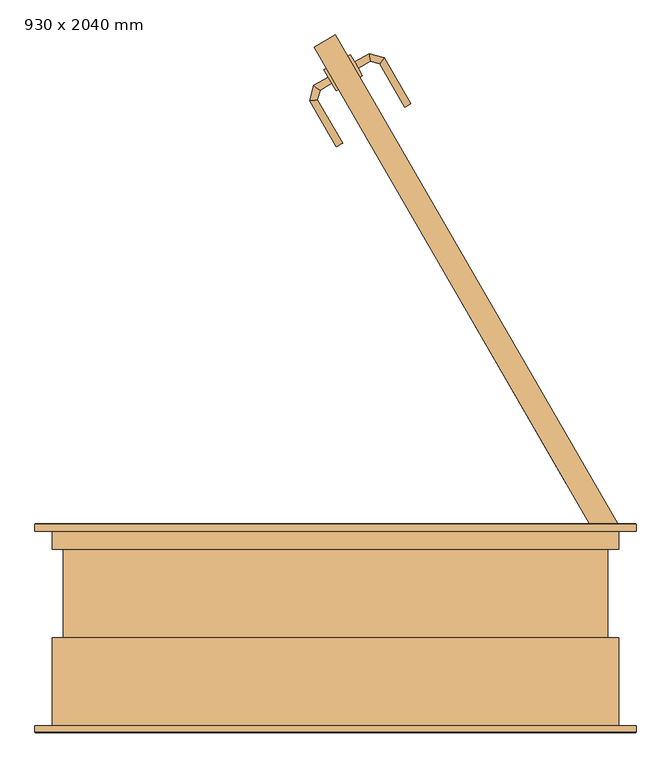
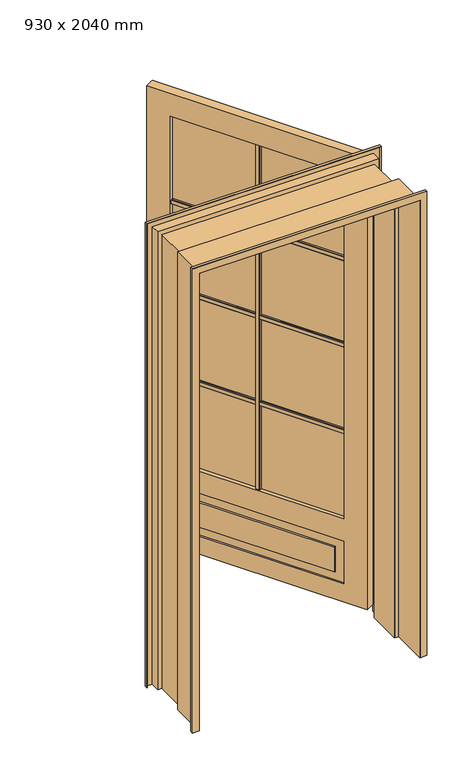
"""IFC4 building model written with IfcOpenShell, lengths in millimetres: door geometry, HM-Simple-Petits carreaux : 930 x 2040 mm."""

from ifc_helpers import new_model, si_unit, point, frame, frame_2d, origin, place, context, project, spatial, polyline, circle_curve, ellipse_curve, trimmed, segment, composite_curve, outline, extrude, faceted_brep, source, transform, mapped, element, save
from ifc_brep_helpers import plane_surface, cylinder_surface, advanced_brep


def door_930_x_2040_mm_3ce59be3(model_context):
    return source(origin(), model_context, "Body", "SolidModel", [
        advanced_brep(
        [(-5.9711432, 897.7459489, 993.0), (-11.9711432, 908.1382537, 993.0), (-11.9711432, 908.1382537, 1007.0), (-5.9711432, 897.7459489, 1007.0), (-25.4439015, 886.5033466, 1007.0), (-25.4439015, 886.5033466, 993.0), (-35.7485351, 894.4103701, 1007.0), (-35.7485351, 894.4103701, 993.0), (-29.6478062, 870.8141605, 1007.0), (-29.6478062, 870.8141605, 993.0), (-42.5253925, 869.1187941, 1007.0), (-42.5253925, 869.1187941, 993.0), (11.6324449, 799.3146682, 993.0), (11.6324449, 799.3146682, 1007.0), (1.2401401, 793.3146682, 1007.0), (1.2401401, 793.3146682, 993.0)],
        [
            (0, 1, circle_curve(frame((-8.9711432, 902.9421013, 1013.0457722), z_axis=(0.866025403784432, 0.5000000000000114, 0.0), x_axis=(-0.5000000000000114, 0.866025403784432, 0.0)), 20.9244589)),
            (1, 2),
            (2, 3, circle_curve(frame((-8.9711432, 902.9421013, 986.9542278), z_axis=(0.866025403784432, 0.5000000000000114, 0.0), x_axis=(-0.5000000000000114, 0.866025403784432, 0.0)), 20.9244589)),
            (3, 0),
            (3, 4),
            (4, 5),
            (5, 0),
            (2, 6),
            (6, 4, ellipse_curve(frame((-30.5962183, 890.4568584, 986.9542278), z_axis=(0.6087614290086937, 0.7933533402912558, 0.0), x_axis=(0.793353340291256, -0.6087614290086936, 0.0)), 22.6484711, 20.9244589)),
            (1, 7),
            (7, 6),
            (5, 7, ellipse_curve(frame((-30.5962183, 890.4568584, 1013.0457722), z_axis=(0.6087614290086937, 0.7933533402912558, 0.0), x_axis=(0.793353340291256, -0.6087614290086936, 0.0)), 22.6484711, 20.9244589)),
            (4, 8),
            (8, 9),
            (9, 5),
            (6, 10),
            (10, 8, ellipse_curve(frame((-36.0865993, 869.9664773, 986.9542278), z_axis=(-0.13052619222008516, 0.991444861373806, 0.0), x_axis=(0.9914448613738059, 0.13052619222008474, 0.0)), 22.6484711, 20.9244589)),
            (7, 11),
            (11, 10),
            (9, 11, ellipse_curve(frame((-36.0865993, 869.9664773, 1013.0457722), z_axis=(-0.13052619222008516, 0.991444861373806, 0.0), x_axis=(0.9914448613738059, 0.13052619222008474, 0.0)), 22.6484711, 20.9244589)),
            (12, 13),
            (13, 14, circle_curve(frame((6.4362925, 796.3146682, 986.9542278), z_axis=(0.5000000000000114, -0.866025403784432, 0.0), x_axis=(-0.866025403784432, -0.5000000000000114, 0.0)), 20.9244589)),
            (14, 15),
            (15, 12, circle_curve(frame((6.4362925, 796.3146682, 1013.0457722), z_axis=(0.5000000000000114, -0.866025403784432, 0.0), x_axis=(-0.866025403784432, -0.5000000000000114, 0.0)), 20.9244589)),
            (8, 13),
            (12, 9),
            (10, 14),
            (11, 15),
        ],
        [
            plane_surface(frame((-13.5809154, 910.926461, 1000.0), z_axis=(0.866025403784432, 0.5000000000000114, 0.0), x_axis=(0.0, 0.0, 1.0))),
            plane_surface(frame((-5.9711432, 897.7459489, 993.0), z_axis=(0.5000000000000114, -0.866025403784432, 0.0), x_axis=(-0.866025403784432, -0.5000000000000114, 0.0))),
            cylinder_surface(frame((-8.9711432, 902.9421013, 986.9542278), z_axis=(0.866025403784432, 0.5000000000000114, 0.0), x_axis=(-0.5000000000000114, 0.866025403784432, 0.0)), 20.9244589),
            plane_surface(frame((-11.9711432, 908.1382537, 1007.0), z_axis=(-0.5000000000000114, 0.866025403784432, 0.0), x_axis=(-0.866025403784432, -0.5000000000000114, 0.0))),
            cylinder_surface(frame((-8.9711432, 902.9421013, 1013.0457722), z_axis=(0.866025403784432, 0.5000000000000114, 0.0), x_axis=(-0.5000000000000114, 0.866025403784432, 0.0)), 20.9244589),
            plane_surface(frame((-25.4439015, 886.5033466, 993.0), z_axis=(0.9659258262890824, -0.2588190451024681, 0.0), x_axis=(-0.2588190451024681, -0.9659258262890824, 0.0))),
            cylinder_surface(frame((-30.5962183, 890.4568584, 986.9542278), z_axis=(0.2588190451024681, 0.9659258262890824, 0.0), x_axis=(-0.9659258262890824, 0.2588190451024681, 0.0)), 20.9244589),
            plane_surface(frame((-35.7485351, 894.4103701, 1007.0), z_axis=(-0.9659258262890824, 0.2588190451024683, 0.0), x_axis=(-0.2588190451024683, -0.9659258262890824, 0.0))),
            cylinder_surface(frame((-30.5962183, 890.4568584, 1013.0457722), z_axis=(0.2588190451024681, 0.9659258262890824, 0.0), x_axis=(-0.9659258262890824, 0.2588190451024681, 0.0)), 20.9244589),
            plane_surface(frame((6.4362925, 796.3146682, 990.7804555), z_axis=(0.5000000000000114, -0.866025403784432, 0.0), x_axis=(-0.866025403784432, -0.5000000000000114, 0.0))),
            plane_surface(frame((-29.6478062, 870.8141605, 993.0), z_axis=(0.866025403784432, 0.5000000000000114, 0.0), x_axis=(0.5000000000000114, -0.866025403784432, 0.0))),
            cylinder_surface(frame((-36.0865993, 869.9664773, 986.9542278), z_axis=(-0.5000000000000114, 0.866025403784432, 0.0), x_axis=(-0.866025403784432, -0.5000000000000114, 0.0)), 20.9244589),
            plane_surface(frame((-42.5253925, 869.1187941, 1007.0), z_axis=(-0.866025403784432, -0.5000000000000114, 0.0), x_axis=(0.5000000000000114, -0.866025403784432, 0.0))),
            cylinder_surface(frame((-36.0865993, 869.9664773, 1013.0457722), z_axis=(-0.5000000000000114, 0.866025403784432, 0.0), x_axis=(-0.866025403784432, -0.5000000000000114, 0.0)), 20.9244589),
        ],
        [
            (0, [[1, 2, 3, 4]]),
            (1, [[5, 6, 7, -4]]),
            (2, [[8, 9, -5, -3]]),
            (3, [[10, 11, -8, -2]]),
            (4, [[-7, 12, -10, -1]]),
            (5, [[13, 14, 15, -6]]),
            (6, [[16, 17, -13, -9]]),
            (7, [[18, 19, -16, -11]]),
            (8, [[-15, 20, -18, -12]]),
            (9, [[21, 22, 23, 24]]),
            (10, [[25, -21, 26, -14]]),
            (11, [[27, -22, -25, -17]]),
            (12, [[28, -23, -27, -19]]),
            (13, [[-26, -24, -28, -20]]),
        ],
    ),
        advanced_brep(
        [(31.330127, 933.1382537, 1007.0), (31.330127, 933.1382537, 993.0), (37.330127, 922.7459489, 993.0), (37.330127, 922.7459489, 1007.0), (56.9719192, 934.0861428, 1007.0), (55.2765528, 946.9637291, 1007.0), (56.9719192, 934.0861428, 993.0), (55.2765528, 946.9637291, 993.0), (72.473265, 929.9325698, 1007.0), (80.3802885, 940.2372034, 1007.0), (72.473265, 929.9325698, 993.0), (80.3802885, 940.2372034, 993.0), (124.2010038, 864.337498, 1007.0), (113.8086989, 858.337498, 1007.0), (113.8086989, 858.337498, 993.0), (124.2010038, 864.337498, 993.0)],
        [
            (0, 1),
            (1, 2, circle_curve(frame((34.330127, 927.9421013, 1013.0457722), z_axis=(-0.866025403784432, -0.5000000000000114, 0.0), x_axis=(0.5000000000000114, -0.866025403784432, 0.0)), 20.9244589)),
            (2, 3),
            (3, 0, circle_curve(frame((34.330127, 927.9421013, 986.9542278), z_axis=(-0.866025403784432, -0.5000000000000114, 0.0), x_axis=(0.5000000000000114, -0.866025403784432, 0.0)), 20.9244589)),
            (3, 4),
            (4, 5, ellipse_curve(frame((56.124236, 940.524936, 986.9542278), z_axis=(-0.9914448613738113, -0.13052619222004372, 0.0), x_axis=(0.13052619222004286, -0.9914448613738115, 0.0)), 22.6484711, 20.9244589)),
            (5, 0),
            (2, 6),
            (6, 4),
            (1, 7),
            (7, 6, ellipse_curve(frame((56.124236, 940.524936, 1013.0457722), z_axis=(-0.9914448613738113, -0.13052619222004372, 0.0), x_axis=(0.13052619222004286, -0.9914448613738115, 0.0)), 22.6484711, 20.9244589)),
            (5, 7),
            (4, 8),
            (8, 9, ellipse_curve(frame((76.4267767, 935.0848866, 986.9542278), z_axis=(-0.7933533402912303, 0.6087614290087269, 0.0), x_axis=(-0.6087614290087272, -0.7933533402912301, 0.0)), 22.6484711, 20.9244589)),
            (9, 5),
            (6, 10),
            (10, 8),
            (7, 11),
            (11, 10, ellipse_curve(frame((76.4267767, 935.0848866, 1013.0457722), z_axis=(-0.7933533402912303, 0.6087614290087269, 0.0), x_axis=(-0.6087614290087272, -0.7933533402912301, 0.0)), 22.6484711, 20.9244589)),
            (9, 11),
            (12, 13, circle_curve(frame((119.0048513, 861.337498, 986.9542278), z_axis=(0.5000000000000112, -0.8660254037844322, 0.0), x_axis=(-0.8660254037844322, -0.5000000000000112, 0.0)), 20.9244589)),
            (13, 14),
            (14, 15, circle_curve(frame((119.0048513, 861.337498, 1013.0457722), z_axis=(0.5000000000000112, -0.8660254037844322, 0.0), x_axis=(-0.8660254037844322, -0.5000000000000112, 0.0)), 20.9244589)),
            (15, 12),
            (8, 13),
            (12, 9),
            (10, 14),
            (11, 15),
        ],
        [
            plane_surface(frame((29.7203548, 935.926461, 1000.0), z_axis=(-0.866025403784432, -0.5000000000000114, 0.0), x_axis=(0.0, 0.0, -1.0))),
            cylinder_surface(frame((34.330127, 927.9421013, 986.9542278), z_axis=(-0.866025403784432, -0.5000000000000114, 0.0), x_axis=(0.5000000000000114, -0.866025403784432, 0.0)), 20.9244589),
            plane_surface(frame((37.330127, 922.7459489, 1007.0), z_axis=(0.5000000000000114, -0.866025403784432, 0.0), x_axis=(0.866025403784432, 0.5000000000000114, 0.0))),
            cylinder_surface(frame((34.330127, 927.9421013, 1013.0457722), z_axis=(-0.866025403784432, -0.5000000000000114, 0.0), x_axis=(0.5000000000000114, -0.866025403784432, 0.0)), 20.9244589),
            plane_surface(frame((31.330127, 933.1382537, 993.0), z_axis=(-0.5000000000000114, 0.866025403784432, 0.0), x_axis=(0.866025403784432, 0.5000000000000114, 0.0))),
            cylinder_surface(frame((56.124236, 940.524936, 986.9542278), z_axis=(-0.9659258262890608, 0.2588190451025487, 0.0), x_axis=(-0.2588190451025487, -0.9659258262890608, 0.0)), 20.9244589),
            plane_surface(frame((56.9719192, 934.0861428, 1007.0), z_axis=(-0.25881904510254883, -0.9659258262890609, 0.0), x_axis=(0.9659258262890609, -0.25881904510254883, 0.0))),
            cylinder_surface(frame((56.124236, 940.524936, 1013.0457722), z_axis=(-0.9659258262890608, 0.2588190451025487, 0.0), x_axis=(-0.2588190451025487, -0.9659258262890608, 0.0)), 20.9244589),
            plane_surface(frame((55.2765528, 946.9637291, 993.0), z_axis=(0.25881904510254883, 0.9659258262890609, 0.0), x_axis=(0.9659258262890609, -0.25881904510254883, 0.0))),
            plane_surface(frame((119.0048513, 861.337498, 990.7804555), z_axis=(0.5000000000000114, -0.866025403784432, 0.0), x_axis=(-0.866025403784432, -0.5000000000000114, 0.0))),
            cylinder_surface(frame((76.4267767, 935.0848866, 986.9542278), z_axis=(-0.5000000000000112, 0.8660254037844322, 0.0), x_axis=(-0.8660254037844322, -0.5000000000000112, 0.0)), 20.9244589),
            plane_surface(frame((72.473265, 929.9325698, 1007.0), z_axis=(-0.866025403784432, -0.5000000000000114, 0.0), x_axis=(0.5000000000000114, -0.866025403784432, 0.0))),
            cylinder_surface(frame((76.4267767, 935.0848866, 1013.0457722), z_axis=(-0.5000000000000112, 0.8660254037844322, 0.0), x_axis=(-0.8660254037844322, -0.5000000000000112, 0.0)), 20.9244589),
            plane_surface(frame((80.3802885, 940.2372034, 993.0), z_axis=(0.866025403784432, 0.5000000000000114, 0.0), x_axis=(0.5000000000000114, -0.866025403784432, 0.0))),
        ],
        [
            (0, [[1, 2, 3, 4]]),
            (1, [[5, 6, 7, -4]]),
            (2, [[8, 9, -5, -3]]),
            (3, [[10, 11, -8, -2]]),
            (4, [[-7, 12, -10, -1]]),
            (5, [[13, 14, 15, -6]]),
            (6, [[16, 17, -13, -9]]),
            (7, [[18, 19, -16, -11]]),
            (8, [[-15, 20, -18, -12]]),
            (9, [[21, 22, 23, 24]]),
            (10, [[25, -21, 26, -14]]),
            (11, [[27, -22, -25, -17]]),
            (12, [[28, -23, -27, -19]]),
            (13, [[-26, -24, -28, -20]]),
        ],
    ),
        extrude(outline(composite_curve([segment(trimmed(circle_curve(frame_2d((0.0, 40.0)), 40.0), [point((-34.6410162, 20.0))], [point((-34.6410162, 60.0000001))], False, "CARTESIAN"), True, "CONTINUOUS"), segment(polyline([(-34.6410162, 60.0000001), (175.3589838, 60.0000001)]), True, "CONTINUOUS"), segment(trimmed(circle_curve(frame_2d((140.7179676, 40.0)), 40.0), [point((175.3589838, 60.0000001))], [point((175.3589838, 20.0))], False, "CARTESIAN"), True, "CONTINUOUS"), segment(polyline([(175.3589838, 20.0), (-34.6410162, 20.0)]), True, "CONTINUOUS")], self_intersect=False)), frame((11.0288568, 868.3010851, 1045.3589838), z_axis=(0.8660254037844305, 0.5000000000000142, 0.0), x_axis=(0.0, 0.0, -1.0)), (0.0, 0.0, 1.0), 5.0),
        extrude(outline(composite_curve([segment(trimmed(circle_curve(frame_2d((0.0, 40.0)), 40.0), [point((34.6410162, 60.0000001))], [point((34.6410162, 20.0))], False, "CARTESIAN"), True, "CONTINUOUS"), segment(polyline([(34.6410162, 20.0), (-175.3589838, 20.0)]), True, "CONTINUOUS"), segment(trimmed(circle_curve(frame_2d((-140.7179676, 40.0)), 40.0), [point((-175.3589838, 20.0))], [point((-175.3589838, 60.0000001))], False, "CARTESIAN"), True, "CONTINUOUS"), segment(polyline([(-175.3589838, 60.0000001), (34.6410162, 60.0000001)]), True, "CONTINUOUS")], self_intersect=False)), frame((50.0, 890.8010851, 904.6410162), z_axis=(0.8660254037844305, 0.5000000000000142, 0.0), x_axis=(0.0, 0.0, -1.0)), (0.0, 0.0, 1.0), 5.0),
        faceted_brep([(-34.6410162, 957.4036255, 2040.0), (-34.6410162, 957.4036255, 30.0), (430.3589838, 152.0, 30.0), (430.3589838, 152.0, 2040.0), (15.3589838, 870.8010851, 400.0), (15.3589838, 870.8010851, 1940.0), (380.3589838, 238.6025404, 1940.0), (380.3589838, 238.6025404, 400.0), (15.3589838, 870.8010851, 300.0), (380.3589838, 238.6025404, 300.0), (380.3589838, 238.6025404, 110.0), (15.3589838, 870.8010851, 110.0), (35.3589838, 836.160069, 150.0), (360.3589838, 273.2435565, 150.0), (360.3589838, 273.2435565, 260.0), (35.3589838, 836.160069, 260.0), (465.0, 172.0, 30.0), (465.0, 172.0, 2040.0), (0.0, 977.4036255, 30.0), (0.0, 977.4036255, 2040.0), (50.0, 890.8010851, 400.0), (415.0, 258.6025404, 400.0), (415.0, 258.6025404, 1940.0), (50.0, 890.8010851, 1940.0), (50.0, 890.8010851, 110.0), (415.0, 258.6025404, 110.0), (415.0, 258.6025404, 300.0), (50.0, 890.8010851, 300.0), (70.0, 856.160069, 260.0), (395.0, 293.2435565, 260.0), (395.0, 293.2435565, 150.0), (70.0, 856.160069, 150.0), (38.4155188, 840.5252533, 147.7479069), (38.4155188, 840.5252533, 262.2520931), (365.6676119, 273.7080013, 262.2520931), (365.6676119, 273.7080013, 147.7479069), (20.6676119, 871.2655299, 112.2520931), (20.6676119, 871.2655299, 297.7479069), (383.4155188, 242.9677247, 112.2520931), (383.4155188, 242.9677247, 297.7479069), (46.943465, 886.4359008, 112.2520931), (46.943465, 886.4359008, 297.7479069), (409.691372, 258.1380956, 297.7479069), (409.691372, 258.1380956, 112.2520931), (64.691372, 855.6956242, 147.7479069), (64.691372, 855.6956242, 262.2520931), (391.943465, 288.8783722, 147.7479069), (391.943465, 288.8783722, 262.2520931)], [[[0, 1, 2, 3], [4, 5, 6, 7], [8, 9, 10, 11]], [[12, 13, 14, 15]], [[2, 16, 17, 3]], [[1, 18, 16, 2]], [[0, 19, 18, 1]], [[19, 17, 16, 18], [20, 21, 22, 23], [24, 25, 26, 27]], [[28, 29, 30, 31]], [[3, 17, 19, 0]], [[7, 21, 20, 4]], [[6, 22, 21, 7]], [[4, 20, 23, 5]], [[5, 23, 22, 6]], [[32, 12, 15, 33]], [[15, 14, 34, 33]], [[14, 13, 35, 34]], [[32, 35, 13, 12]], [[8, 11, 36, 37]], [[11, 10, 38, 36]], [[39, 38, 10, 9]], [[37, 39, 9, 8]], [[40, 24, 27, 41]], [[27, 26, 42, 41]], [[26, 25, 43, 42]], [[40, 43, 25, 24]], [[28, 31, 44, 45]], [[31, 30, 46, 44]], [[47, 46, 30, 29]], [[45, 47, 29, 28]], [[36, 38, 39, 37], [33, 34, 35, 32]], [[41, 42, 43, 40], [44, 46, 47, 45]]]),
        extrude(outline(polyline([(28.3493649, 878.3010851), (37.0096189, 883.3010851), (402.0096189, 251.1025404), (393.3493649, 246.1025404), (28.3493649, 878.3010851)])), frame((0.0, 0.0, 400.0), z_axis=(0.0, 0.0, 1.0), x_axis=(1.0, 0.0, 0.0)), (0.0, 0.0, 1.0), 1540.0),
        extrude(outline(polyline([(221.0716359, 579.650649), (224.3812907, 578.7638297), (231.9584552, 565.6397958), (231.0716359, 562.330141), (224.5096189, 558.5415587), (214.5096189, 575.8620668), (221.0716359, 579.650649)])), frame((0.0, 0.0, 400.0), z_axis=(0.0, 0.0, 1.0), x_axis=(1.0, 0.0, 0.0)), (0.0, 0.0, 1.0), 1540.0),
        extrude(outline(polyline([(199.287348, 567.0734846), (205.8493649, 570.8620668), (215.8493649, 553.5415587), (209.287348, 549.7529765), (205.9776931, 550.6397958), (198.4005286, 563.7638297), (199.287348, 567.0734846)])), frame((0.0, 0.0, 400.0), z_axis=(0.0, 0.0, 1.0), x_axis=(1.0, 0.0, 0.0)), (0.0, 0.0, 1.0), 1540.0),
        extrude(outline(polyline([(-12.5771645, 10.0), (-5.0, 10.0), (-5.0, -10.0), (-12.5771645, -10.0), (-15.0, -7.5771645), (-15.0, 7.5771645), (-12.5771645, 10.0)])), frame((397.6794919, 248.6025404, 1555.0), z_axis=(-0.5000000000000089, 0.8660254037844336, 0.0), x_axis=(-0.8660254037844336, -0.5000000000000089, 0.0)), (0.0, 0.0, 1.0), 730.0),
        extrude(outline(polyline([(12.5771645, 10.0), (15.0, 7.5771645), (15.0, -7.5771645), (12.5771645, -10.0), (5.0, -10.0), (5.0, 10.0), (12.5771645, 10.0)])), frame((397.6794919, 248.6025404, 1555.0), z_axis=(-0.5000000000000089, 0.8660254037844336, 0.0), x_axis=(-0.8660254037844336, -0.5000000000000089, 0.0)), (0.0, 0.0, 1.0), 730.0),
        extrude(outline(polyline([(-12.5771645, 10.0), (-5.0, 10.0), (-5.0, -10.0), (-12.5771645, -10.0), (-15.0, -7.5771645), (-15.0, 7.5771645), (-12.5771645, 10.0)])), frame((397.6794919, 248.6025404, 1170.0), z_axis=(-0.5000000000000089, 0.8660254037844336, 0.0), x_axis=(-0.8660254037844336, -0.5000000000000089, 0.0)), (0.0, 0.0, 1.0), 730.0),
        extrude(outline(polyline([(12.5771645, 10.0), (15.0, 7.5771645), (15.0, -7.5771645), (12.5771645, -10.0), (5.0, -10.0), (5.0, 10.0), (12.5771645, 10.0)])), frame((397.6794919, 248.6025404, 1170.0), z_axis=(-0.5000000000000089, 0.8660254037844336, 0.0), x_axis=(-0.8660254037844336, -0.5000000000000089, 0.0)), (0.0, 0.0, 1.0), 730.0),
        extrude(outline(polyline([(-12.5771645, 10.0), (-5.0, 10.0), (-5.0, -10.0), (-12.5771645, -10.0), (-15.0, -7.5771645), (-15.0, 7.5771645), (-12.5771645, 10.0)])), frame((397.6794919, 248.6025404, 785.0), z_axis=(-0.5000000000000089, 0.8660254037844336, 0.0), x_axis=(-0.8660254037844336, -0.5000000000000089, 0.0)), (0.0, 0.0, 1.0), 730.0),
        extrude(outline(polyline([(12.5771645, 10.0), (15.0, 7.5771645), (15.0, -7.5771645), (12.5771645, -10.0), (5.0, -10.0), (5.0, 10.0), (12.5771645, 10.0)])), frame((397.6794919, 248.6025404, 785.0), z_axis=(-0.5000000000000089, 0.8660254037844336, 0.0), x_axis=(-0.8660254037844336, -0.5000000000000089, 0.0)), (0.0, 0.0, 1.0), 730.0),
        faceted_brep([(495.0, -160.0, 0.0), (495.0, -171.2, 0.0), (494.2, -172.0, 0.0), (465.8, -172.0, 0.0), (465.0, -171.2, 0.0), (465.0, -17.0, 0.0), (447.8, -17.0, 0.0), (447.0, -16.2, 0.0), (447.0, 131.2, 0.0), (447.8, 132.0, 0.0), (465.0, 132.0, 0.0), (465.0, 171.2, 0.0), (465.8, 172.0, 0.0), (494.2, 172.0, 0.0), (495.0, 171.2, 0.0), (495.0, 160.0, 0.0), (493.5, 160.0, 0.0), (493.5, 170.5, 0.0), (466.5, 170.5, 0.0), (466.5, 130.5, 0.0), (448.5, 130.5, 0.0), (448.5, -15.5, 0.0), (466.5, -15.5, 0.0), (466.5, -170.5, 0.0), (493.5, -170.5, 0.0), (493.5, -160.0, 0.0), (493.5, -160.0, 2068.5), (-493.5, -160.0, 2068.5), (-493.5, -160.0, 0.0), (-495.0, -160.0, 0.0), (-495.0, -160.0, 2070.0), (495.0, -160.0, 2070.0), (493.5, -170.5, 2068.5), (466.5, -170.5, 2041.5), (-466.5, -170.5, 2041.5), (-466.5, -170.5, 0.0), (-493.5, -170.5, 0.0), (-493.5, -170.5, 2068.5), (466.5, -15.5, 2041.5), (448.5, -15.5, 2023.5), (-448.5, -15.5, 2023.5), (-448.5, -15.5, 0.0), (-466.5, -15.5, 0.0), (-466.5, -15.5, 2041.5), (448.5, 130.5, 2023.5), (466.5, 130.5, 2041.5), (-466.5, 130.5, 2041.5), (-466.5, 130.5, 0.0), (-448.5, 130.5, 0.0), (-448.5, 130.5, 2023.5), (466.5, 170.5, 2041.5), (493.5, 170.5, 2068.5), (-493.5, 170.5, 2068.5), (-493.5, 170.5, 0.0), (-466.5, 170.5, 0.0), (-466.5, 170.5, 2041.5), (493.5, 160.0, 2068.5), (495.0, 160.0, 2070.0), (-495.0, 160.0, 2070.0), (-495.0, 160.0, 0.0), (-493.5, 160.0, 0.0), (-493.5, 160.0, 2068.5), (495.0, 171.2, 2070.0), (494.2, 172.0, 2069.2), (465.8, 172.0, 2040.8), (-465.8, 172.0, 2040.8), (-465.8, 172.0, 0.0), (-494.2, 172.0, 0.0), (-494.2, 172.0, 2069.2), (465.0, 171.2, 2040.0), (465.0, 132.0, 2040.0), (447.8, 132.0, 2022.8), (-447.8, 132.0, 2022.8), (-447.8, 132.0, 0.0), (-465.0, 132.0, 0.0), (-465.0, 132.0, 2040.0), (447.0, 131.2, 2022.0), (447.0, -16.2, 2022.0), (447.8, -17.0, 2022.8), (465.0, -17.0, 2040.0), (-465.0, -17.0, 2040.0), (-465.0, -17.0, 0.0), (-447.8, -17.0, 0.0), (-447.8, -17.0, 2022.8), (465.0, -171.2, 2040.0), (465.8, -172.0, 2040.8), (494.2, -172.0, 2069.2), (-494.2, -172.0, 2069.2), (-494.2, -172.0, 0.0), (-465.8, -172.0, 0.0), (-465.8, -172.0, 2040.8), (495.0, -171.2, 2070.0), (-495.0, -171.2, 0.0), (-495.0, -171.2, 2070.0), (-495.0, 171.2, 0.0), (-465.0, 171.2, 0.0), (-447.0, 131.2, 0.0), (-447.0, -16.2, 0.0), (-465.0, -171.2, 0.0), (-495.0, 171.2, 2070.0), (-465.0, 171.2, 2040.0), (-447.0, 131.2, 2022.0), (-447.0, -16.2, 2022.0), (-465.0, -171.2, 2040.0)], [[[0, 1, 2, 3, 4, 5, 6, 7, 8, 9, 10, 11, 12, 13, 14, 15, 16, 17, 18, 19, 20, 21, 22, 23, 24, 25]], [[25, 26, 27, 28, 29, 30, 31, 0]], [[24, 32, 26, 25]], [[23, 33, 34, 35, 36, 37, 32, 24]], [[22, 38, 33, 23]], [[21, 39, 40, 41, 42, 43, 38, 22]], [[20, 44, 39, 21]], [[19, 45, 46, 47, 48, 49, 44, 20]], [[18, 50, 45, 19]], [[17, 51, 52, 53, 54, 55, 50, 18]], [[16, 56, 51, 17]], [[15, 57, 58, 59, 60, 61, 56, 16]], [[14, 62, 57, 15]], [[13, 63, 62, 14]], [[12, 64, 65, 66, 67, 68, 63, 13]], [[11, 69, 64, 12]], [[10, 70, 69, 11]], [[9, 71, 72, 73, 74, 75, 70, 10]], [[8, 76, 71, 9]], [[7, 77, 76, 8]], [[6, 78, 77, 7]], [[5, 79, 80, 81, 82, 83, 78, 6]], [[4, 84, 79, 5]], [[3, 85, 84, 4]], [[2, 86, 87, 88, 89, 90, 85, 3]], [[1, 91, 86, 2]], [[0, 31, 91, 1]], [[30, 29, 92, 93]], [[29, 28, 36, 35, 42, 41, 48, 47, 54, 53, 60, 59, 94, 67, 66, 95, 74, 73, 96, 97, 82, 81, 98, 89, 88, 92]], [[37, 36, 28, 27]], [[43, 42, 35, 34]], [[49, 48, 41, 40]], [[55, 54, 47, 46]], [[61, 60, 53, 52]], [[99, 94, 59, 58]], [[68, 67, 94, 99]], [[100, 95, 66, 65]], [[75, 74, 95, 100]], [[101, 96, 73, 72]], [[83, 82, 97, 102]], [[103, 98, 81, 80]], [[90, 89, 98, 103]], [[93, 92, 88, 87]], [[102, 97, 96, 101]], [[32, 37, 27, 26]], [[38, 43, 34, 33]], [[44, 49, 40, 39]], [[50, 55, 46, 45]], [[56, 61, 52, 51]], [[62, 99, 58, 57]], [[63, 68, 99, 62]], [[69, 100, 65, 64]], [[70, 75, 100, 69]], [[76, 101, 72, 71]], [[77, 102, 101, 76]], [[78, 83, 102, 77]], [[84, 103, 80, 79]], [[85, 90, 103, 84]], [[91, 93, 87, 86]], [[31, 30, 93, 91]]]),
    ])


if __name__ == "__main__":
    model = new_model("IFC4")
    model_context = context("Model", 3, world=origin())
    ifc_project = project(units=[si_unit("LENGTHUNIT", "METRE", prefix="MILLI")], contexts=[model_context])
    site = spatial("IfcSite", under=ifc_project)
    building = spatial("IfcBuilding", under=site)
    placement = place(None, origin())
    door_930_x_2040_mm_shape = door_930_x_2040_mm_3ce59be3(model_context)
    element("IfcDoor", 1, ObjectType="HM-Simple-Petits carreaux : 930 x 2040 mm", at=placement, inside=building, context=model_context, shape_type="MappedRepresentation", body=[
        mapped(door_930_x_2040_mm_shape, transform((0.0, 0.0, 0.0), x_axis=(1.0, 0.0, 0.0), y_axis=(0.0, 1.0, 0.0), z_axis=(0.0, 0.0, 1.0))),
    ])
    save(model, "model.ifc")
